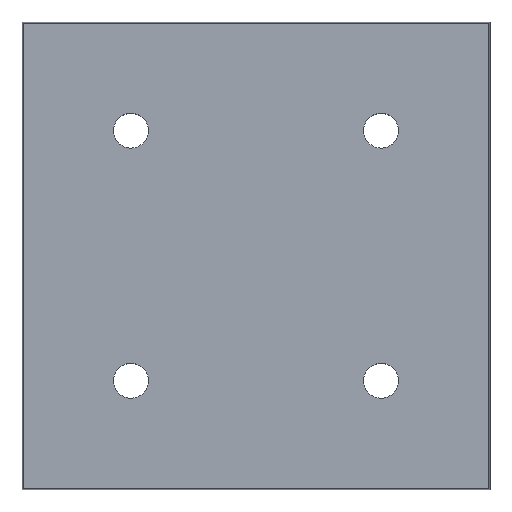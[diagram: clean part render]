
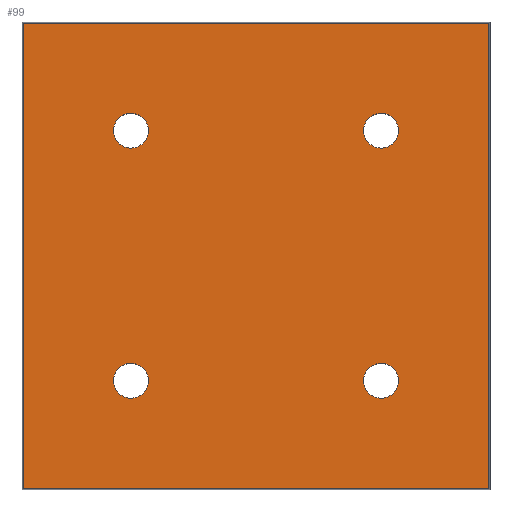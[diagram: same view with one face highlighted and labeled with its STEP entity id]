
A CAD part, top view. The second image highlights one B-rep face of the part: STEP entity #99.
In plain terms, the highlighted planar face has unit normal (0, 0, 1).
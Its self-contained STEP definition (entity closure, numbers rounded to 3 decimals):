
#99 = ADVANCED_FACE( '', ( #156, #157, #158, #159, #160 ), #161, .T. );
#156 = FACE_BOUND( '', #217, .T. );
#157 = FACE_BOUND( '', #218, .T. );
#158 = FACE_BOUND( '', #219, .T. );
#159 = FACE_BOUND( '', #220, .T. );
#160 = FACE_OUTER_BOUND( '', #221, .T. );
#161 = PLANE( '', #222 );
#217 = EDGE_LOOP( '', ( #403, #404 ) );
#218 = EDGE_LOOP( '', ( #405, #406 ) );
#219 = EDGE_LOOP( '', ( #407, #408 ) );
#220 = EDGE_LOOP( '', ( #409, #410 ) );
#221 = EDGE_LOOP( '', ( #411, #412, #413, #414 ) );
#222 = AXIS2_PLACEMENT_3D( '', #415, #416, #417 );
#403 = ORIENTED_EDGE( '', *, *, #433, .T. );
#404 = ORIENTED_EDGE( '', *, *, #462, .T. );
#405 = ORIENTED_EDGE( '', *, *, #429, .T. );
#406 = ORIENTED_EDGE( '', *, *, #463, .T. );
#407 = ORIENTED_EDGE( '', *, *, #425, .T. );
#408 = ORIENTED_EDGE( '', *, *, #464, .T. );
#409 = ORIENTED_EDGE( '', *, *, #421, .T. );
#410 = ORIENTED_EDGE( '', *, *, #465, .T. );
#411 = ORIENTED_EDGE( '', *, *, #477, .T. );
#412 = ORIENTED_EDGE( '', *, *, #468, .T. );
#413 = ORIENTED_EDGE( '', *, *, #472, .T. );
#414 = ORIENTED_EDGE( '', *, *, #475, .T. );
#415 = CARTESIAN_POINT( '', ( 0., 0., 0. ) );
#416 = DIRECTION( '', ( 0., 0., 1. ) );
#417 = DIRECTION( '', ( 1., 0., 0. ) );
#421 = EDGE_CURVE( '', #479, #483, #485, .T. );
#425 = EDGE_CURVE( '', #487, #491, #493, .T. );
#429 = EDGE_CURVE( '', #495, #499, #501, .T. );
#433 = EDGE_CURVE( '', #503, #507, #509, .T. );
#462 = EDGE_CURVE( '', #507, #503, #554, .T. );
#463 = EDGE_CURVE( '', #499, #495, #555, .T. );
#464 = EDGE_CURVE( '', #491, #487, #556, .T. );
#465 = EDGE_CURVE( '', #483, #479, #557, .T. );
#468 = EDGE_CURVE( '', #563, #561, #564, .T. );
#472 = EDGE_CURVE( '', #561, #568, #570, .T. );
#475 = EDGE_CURVE( '', #568, #573, #575, .T. );
#477 = EDGE_CURVE( '', #573, #563, #577, .T. );
#479 = VERTEX_POINT( '', #579 );
#483 = VERTEX_POINT( '', #584 );
#485 = CIRCLE( '', #587, 3.35 );
#487 = VERTEX_POINT( '', #589 );
#491 = VERTEX_POINT( '', #594 );
#493 = CIRCLE( '', #597, 3.35 );
#495 = VERTEX_POINT( '', #599 );
#499 = VERTEX_POINT( '', #604 );
#501 = CIRCLE( '', #607, 3.35 );
#503 = VERTEX_POINT( '', #609 );
#507 = VERTEX_POINT( '', #614 );
#509 = CIRCLE( '', #617, 3.35 );
#554 = CIRCLE( '', #678, 3.35 );
#555 = CIRCLE( '', #679, 3.35 );
#556 = CIRCLE( '', #680, 3.35 );
#557 = CIRCLE( '', #681, 3.35 );
#561 = VERTEX_POINT( '', #686 );
#563 = VERTEX_POINT( '', #689 );
#564 = LINE( '', #690, #691 );
#568 = VERTEX_POINT( '', #697 );
#570 = LINE( '', #700, #701 );
#573 = VERTEX_POINT( '', #705 );
#575 = LINE( '', #708, #709 );
#577 = LINE( '', #712, #713 );
#579 = CARTESIAN_POINT( '', ( 3.35, 0., 0. ) );
#584 = CARTESIAN_POINT( '', ( -3.35, 0., 0. ) );
#587 = AXIS2_PLACEMENT_3D( '', #719, #720, #721 );
#589 = CARTESIAN_POINT( '', ( 51.35, 0., 0. ) );
#594 = CARTESIAN_POINT( '', ( 44.65, 0., 0. ) );
#597 = AXIS2_PLACEMENT_3D( '', #727, #728, #729 );
#599 = CARTESIAN_POINT( '', ( 51.35, 48., 0. ) );
#604 = CARTESIAN_POINT( '', ( 44.65, 48., 0. ) );
#607 = AXIS2_PLACEMENT_3D( '', #735, #736, #737 );
#609 = CARTESIAN_POINT( '', ( 3.35, 48., 0. ) );
#614 = CARTESIAN_POINT( '', ( -3.35, 48., 0. ) );
#617 = AXIS2_PLACEMENT_3D( '', #743, #744, #745 );
#678 = AXIS2_PLACEMENT_3D( '', #798, #799, #800 );
#679 = AXIS2_PLACEMENT_3D( '', #801, #802, #803 );
#680 = AXIS2_PLACEMENT_3D( '', #804, #805, #806 );
#681 = AXIS2_PLACEMENT_3D( '', #807, #808, #809 );
#686 = CARTESIAN_POINT( '', ( 68.65, -20.65, 0. ) );
#689 = CARTESIAN_POINT( '', ( -20.65, -20.65, 0. ) );
#690 = CARTESIAN_POINT( '', ( -20.65, -20.65, 0. ) );
#691 = VECTOR( '', #812, 1. );
#697 = CARTESIAN_POINT( '', ( 68.65, 68.65, 0. ) );
#700 = CARTESIAN_POINT( '', ( 68.65, -20.65, 0. ) );
#701 = VECTOR( '', #816, 1. );
#705 = CARTESIAN_POINT( '', ( -20.65, 68.65, 0. ) );
#708 = CARTESIAN_POINT( '', ( 68.65, 68.65, 0. ) );
#709 = VECTOR( '', #819, 1. );
#712 = CARTESIAN_POINT( '', ( -20.65, 68.65, 0. ) );
#713 = VECTOR( '', #821, 1. );
#719 = CARTESIAN_POINT( '', ( 0., 0., 0. ) );
#720 = DIRECTION( '', ( 0., 0., -1. ) );
#721 = DIRECTION( '', ( 1., 0., 0. ) );
#727 = CARTESIAN_POINT( '', ( 48., 0., 0. ) );
#728 = DIRECTION( '', ( 0., 0., -1. ) );
#729 = DIRECTION( '', ( 1., 0., 0. ) );
#735 = CARTESIAN_POINT( '', ( 48., 48., 0. ) );
#736 = DIRECTION( '', ( 0., 0., -1. ) );
#737 = DIRECTION( '', ( 1., 0., 0. ) );
#743 = CARTESIAN_POINT( '', ( 0., 48., 0. ) );
#744 = DIRECTION( '', ( 0., 0., -1. ) );
#745 = DIRECTION( '', ( 1., 0., 0. ) );
#798 = CARTESIAN_POINT( '', ( 0., 48., 0. ) );
#799 = DIRECTION( '', ( 0., 0., -1. ) );
#800 = DIRECTION( '', ( 1., 0., 0. ) );
#801 = CARTESIAN_POINT( '', ( 48., 48., 0. ) );
#802 = DIRECTION( '', ( 0., 0., -1. ) );
#803 = DIRECTION( '', ( 1., 0., 0. ) );
#804 = CARTESIAN_POINT( '', ( 48., 0., 0. ) );
#805 = DIRECTION( '', ( 0., 0., -1. ) );
#806 = DIRECTION( '', ( 1., 0., 0. ) );
#807 = CARTESIAN_POINT( '', ( 0., 0., 0. ) );
#808 = DIRECTION( '', ( 0., 0., -1. ) );
#809 = DIRECTION( '', ( 1., 0., 0. ) );
#812 = DIRECTION( '', ( 1., 0., 0. ) );
#816 = DIRECTION( '', ( 0., 1., 0. ) );
#819 = DIRECTION( '', ( -1., 0., 0. ) );
#821 = DIRECTION( '', ( 0., -1., 0. ) );
